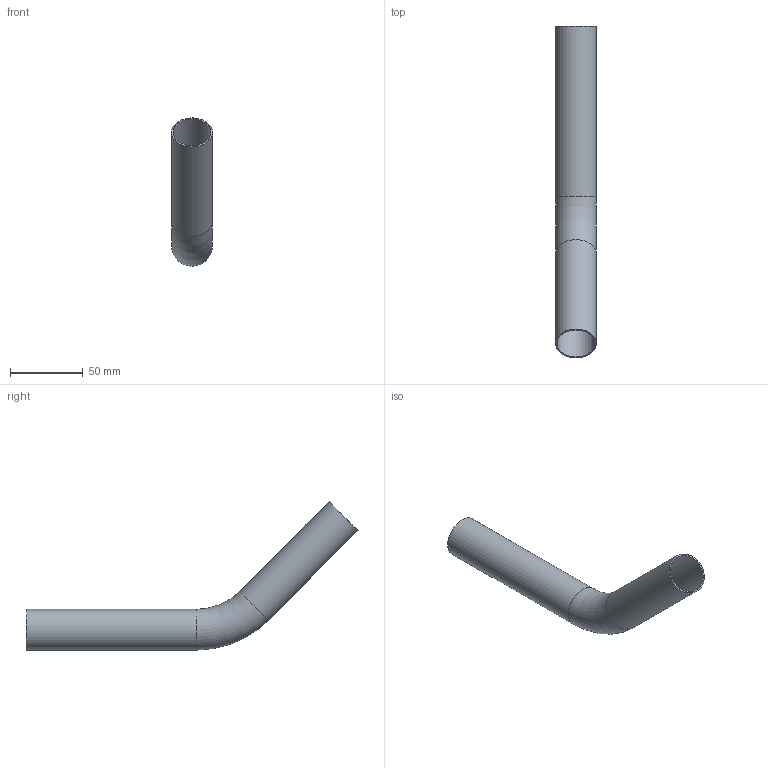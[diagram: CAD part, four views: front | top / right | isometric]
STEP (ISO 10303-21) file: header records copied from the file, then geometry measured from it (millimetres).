
FILE_DESCRIPTION(('STEP AP203'), '1');
FILE_NAME('ÂÐ.747111.014 - VTi.955.I.452828 Îòâîä 45 ãð. d28 (110õ140)', '', ('UNSPECIFIED'), ('UNSPECIFIED'), 'C3D Converter', 'C3D Toolkit', '');
FILE_SCHEMA(('CONFIG_CONTROL_DESIGN'));
Length unit declared in the file: millimetre
Products named in the file (1): ВР.747111.014
Bounding box: 28 x 227.68 x 101.68 mm (x, y, z)
Volume: 21001.4 mm3; surface area: 42172.4 mm2
Topology: 1 solids, 1 shells, 8 faces, 14 edges, 8 vertices
Faces by surface type: cylinder 4, torus 2, plane 2
Full cylindrical faces by diameter (mm): 26 x2, 28 x2
Entity records: 208 total; most frequent: DIRECTION 34, CARTESIAN_POINT 25, AXIS2_PLACEMENT_3D 17, EDGE_LOOP 16, ORIENTED_EDGE 16, FACE_OUTER_BOUND 12, ADVANCED_FACE 8, EDGE_CURVE 8
